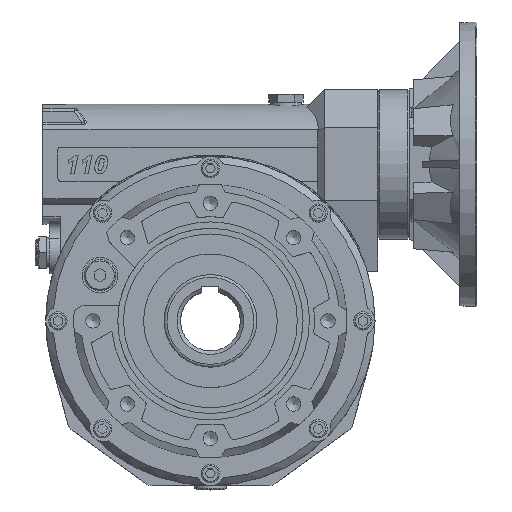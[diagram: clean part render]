
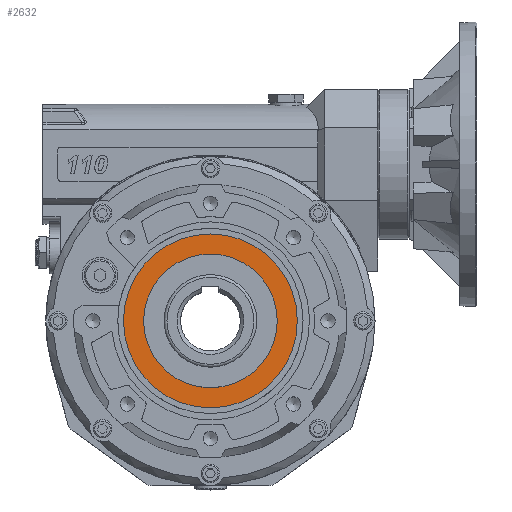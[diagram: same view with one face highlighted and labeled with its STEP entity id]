
A CAD part, top view. The second image highlights one B-rep face of the part: STEP entity #2632.
In plain terms, the highlighted planar face has unit normal (0, 0, 1).
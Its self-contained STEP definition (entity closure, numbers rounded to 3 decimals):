
#2632 = ADVANCED_FACE( '', ( #5801, #5802 ), #5803, .T. );
#5801 = FACE_OUTER_BOUND( '', #9948, .T. );
#5802 = FACE_BOUND( '', #9949, .T. );
#5803 = PLANE( '', #9950 );
#9948 = EDGE_LOOP( '', ( #16967 ) );
#9949 = EDGE_LOOP( '', ( #16968 ) );
#9950 = AXIS2_PLACEMENT_3D( '', #16969, #16970, #16971 );
#16967 = ORIENTED_EDGE( '', *, *, #20534, .T. );
#16968 = ORIENTED_EDGE( '', *, *, #20000, .F. );
#16969 = CARTESIAN_POINT( '', ( 0., 46.9, 70. ) );
#16970 = DIRECTION( '', ( 0., 0., 1. ) );
#16971 = DIRECTION( '', ( 0., 1., 0. ) );
#20000 = EDGE_CURVE( '', #23756, #23756, #23757, .T. );
#20534 = EDGE_CURVE( '', #24602, #24602, #24603, .T. );
#23756 = VERTEX_POINT( '', #29593 );
#23757 = CIRCLE( '', #29594, 46.9 );
#24602 = VERTEX_POINT( '', #30849 );
#24603 = CIRCLE( '', #30850, 61. );
#29593 = CARTESIAN_POINT( '', ( 0., 46.9, 70. ) );
#29594 = AXIS2_PLACEMENT_3D( '', #35426, #35427, #35428 );
#30849 = CARTESIAN_POINT( '', ( 0., 61., 70. ) );
#30850 = AXIS2_PLACEMENT_3D( '', #36100, #36101, #36102 );
#35426 = CARTESIAN_POINT( '', ( 0., 0., 70. ) );
#35427 = DIRECTION( '', ( 0., 0., 1. ) );
#35428 = DIRECTION( '', ( 0., 1., 0. ) );
#36100 = CARTESIAN_POINT( '', ( 0., 0., 70. ) );
#36101 = DIRECTION( '', ( 0., 0., 1. ) );
#36102 = DIRECTION( '', ( 0., 1., 0. ) );
